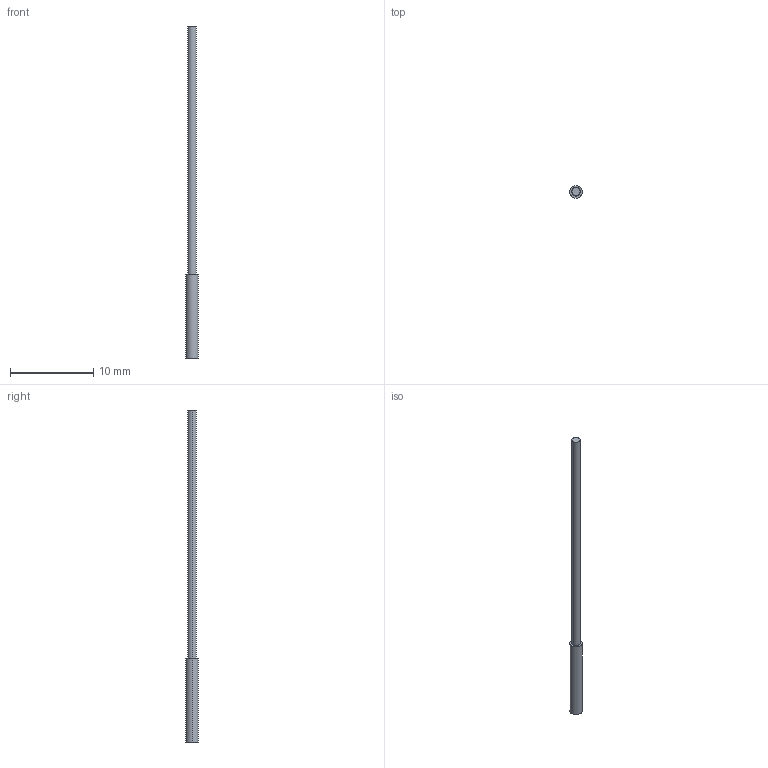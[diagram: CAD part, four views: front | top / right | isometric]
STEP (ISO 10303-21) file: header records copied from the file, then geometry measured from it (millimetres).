
FILE_DESCRIPTION (( 'STEP AP203' ), '1' );
FILE_NAME ('FQ-59_T.STEP', '2020-11-03T07:02:49', ( '' ), ( '' ), 'SwSTEP 2.0', 'SolidWorks 2020', '' );
FILE_SCHEMA (( 'CONFIG_CONTROL_DESIGN' ));
Length unit declared in the file: millimetre
Products named in the file (1): FQ-59_T
Bounding box: 1.5 x 1.5 x 40 mm (x, y, z)
Volume: 41.2 mm3; surface area: 145.6 mm2
Topology: 1 solids, 1 shells, 31 faces, 60 edges, 40 vertices
Faces by surface type: cylinder 20, plane 11
Entity records: 891 total; most frequent: DIRECTION 164, CARTESIAN_POINT 132, ORIENTED_EDGE 120, AXIS2_PLACEMENT_3D 72, EDGE_CURVE 60, VERTEX_POINT 40, CIRCLE 40, EDGE_LOOP 40
